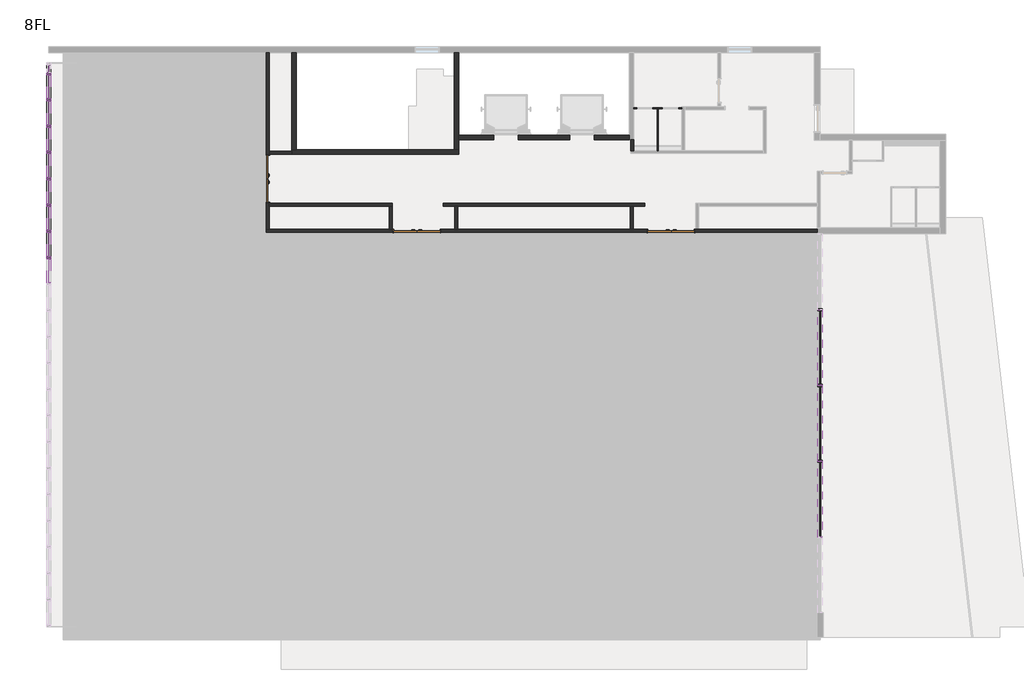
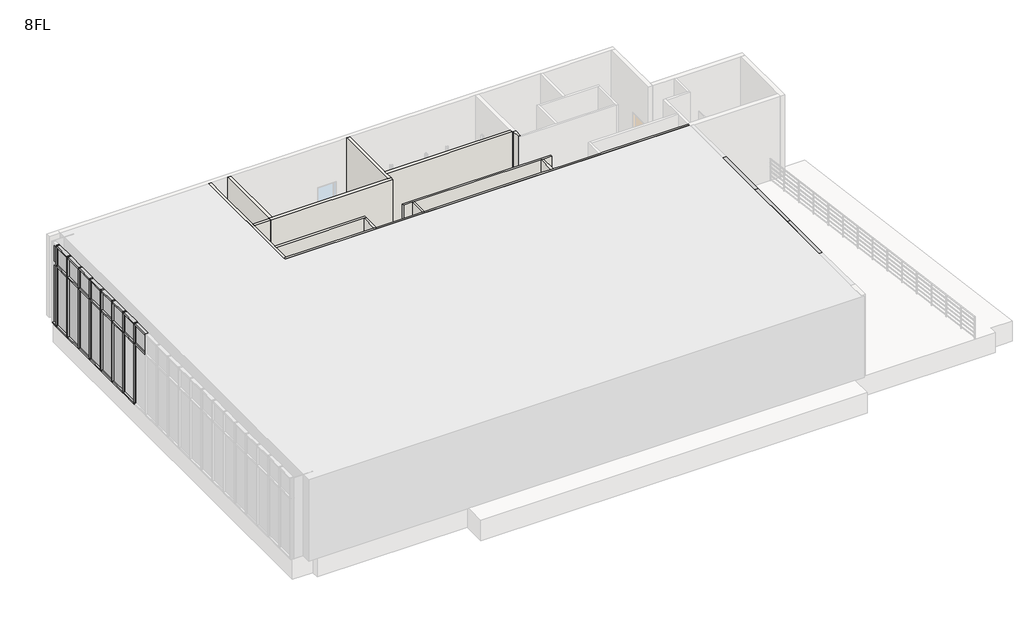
# One storey, part 2 of 3: 46 members, 19 plates, 15 walls, 3 doors.
"""IFC4 building model written with IfcOpenShell, lengths in millimetres."""

from ifc_helpers import new_model, si_unit, frame, origin, place, context, project, spatial, polyline, outline, extrude, faceted_brep, transform, mapped, element, save
from components import door_1de376c6, member_25x150_5b56dd58, member_70x150_6224b0b0, member_70x150_cdd4dcf9, member_70x150_66cf63de, member_70x150_26475b18, member_70x150_ad4265bc, member_70x150_a15bb337, plate_db6f16bc, plate_28587fd3, plate_396bcf3c, plate_4066ba05, plate_ba683b9a

model = new_model("IFC4")

# Units and contexts
model_context = context("Model", 3, world=origin())
ifc_project = project(units=[si_unit("LENGTHUNIT", "METRE", prefix="MILLI")], contexts=[model_context])

# Site, building, storey
site = spatial("IfcSite", under=ifc_project)
building = spatial("IfcBuilding", under=site)
storey = spatial("IfcBuildingStorey", under=building, Name="8FL", Elevation=28600.0)

# Doors
placement = place(None, origin())
door_shape = door_1de376c6(model_context)
element("IfcDoor", 1, ObjectType="両開き戸 : 両開き：w1600h2000", at=placement, inside=storey, context=model_context, shape_type="MappedRepresentation", body=[
    mapped(door_shape, transform((-21845.9784025, 12245.6585069, 28600.0), x_axis=(0.0, 1.0, 0.0), y_axis=(-1.0, 0.0, 0.0), z_axis=(0.0, 0.0, 1.0))),
])
element("IfcDoor", 2, ObjectType="両開き戸 : 両開き：w1600h2000", at=placement, inside=storey, context=model_context, shape_type="MappedRepresentation", body=[
    mapped(door_shape, transform((-16754.4500107, 10449.6868987, 28600.0), x_axis=(-1.0, 0.0, 0.0), y_axis=(0.0, -1.0, 0.0), z_axis=(0.0, 0.0, 1.0))),
])
element("IfcDoor", 3, ObjectType="両開き戸 : 両開き：w1600h2000", at=placement, inside=storey, context=model_context, shape_type="MappedRepresentation", body=[
    mapped(door_shape, transform((-8054.4500107, 10449.6868987, 28600.0), x_axis=(-1.0, 0.0, 0.0), y_axis=(0.0, -1.0, 0.0), z_axis=(0.0, 0.0, 1.0))),
])

# Members
member_25x150_shape = member_25x150_5b56dd58(model_context)
element("IfcMember", 4, ObjectType="長方形のマリオン : 25x150", at=placement, inside=storey, context=model_context, shape_type="MappedRepresentation", body=[
    mapped(member_25x150_shape, transform((-2945.9784025, 2564.6868987, 32600.0), x_axis=(0.0, 0.0, 1.0), y_axis=(1.0, 0.0, 0.0), z_axis=(0.0, 1.0, 0.0))),
])
element("IfcMember", 5, ObjectType="長方形のマリオン : 25x150", at=placement, inside=storey, context=model_context, shape_type="MappedRepresentation", body=[
    mapped(member_25x150_shape, transform((-2945.9784025, 5159.6868987, 32600.0), x_axis=(0.0, 0.0, 1.0), y_axis=(1.0, 0.0, 0.0), z_axis=(0.0, 1.0, 0.0))),
])
element("IfcMember", 6, ObjectType="長方形のマリオン : 25x150", at=placement, inside=storey, context=model_context, shape_type="MappedRepresentation", body=[
    mapped(member_25x150_shape, transform((-2945.9784025, 7754.6868987, 32600.0), x_axis=(0.0, 0.0, 1.0), y_axis=(1.0, 0.0, 0.0), z_axis=(0.0, 1.0, 0.0))),
])
member_70x150_shape = member_70x150_6224b0b0(model_context)
element("IfcMember", 7, ObjectType="長方形のマリオン : 70x150", at=placement, inside=storey, context=model_context, shape_type="MappedRepresentation", body=[
    mapped(member_70x150_shape, transform((-2945.9784025, 2564.6868987, 28600.0), x_axis=(0.0, 1.0, 0.0), y_axis=(1.0, 0.0, 0.0), z_axis=(0.0, 0.0, -1.0))),
])
element("IfcMember", 8, ObjectType="長方形のマリオン : 70x150", at=placement, inside=storey, context=model_context, shape_type="MappedRepresentation", body=[
    mapped(member_70x150_shape, transform((-2945.9784025, 5159.6868987, 28600.0), x_axis=(0.0, 1.0, 0.0), y_axis=(1.0, 0.0, 0.0), z_axis=(0.0, 0.0, -1.0))),
])
element("IfcMember", 9, ObjectType="長方形のマリオン : 70x150", at=placement, inside=storey, context=model_context, shape_type="MappedRepresentation", body=[
    mapped(member_70x150_shape, transform((-2945.9784025, 7754.6868987, 28600.0), x_axis=(0.0, 1.0, 0.0), y_axis=(1.0, 0.0, 0.0), z_axis=(0.0, 0.0, -1.0))),
])
member_70x150_2_shape = member_70x150_cdd4dcf9(model_context)
element("IfcMember", 10, ObjectType="長方形のマリオン : 70x150", at=placement, inside=storey, context=model_context, shape_type="MappedRepresentation", body=[
    mapped(member_70x150_2_shape, transform((-29345.9784025, 15834.6868987, 28600.0), x_axis=(0.0, 1.0, 0.0), y_axis=(1.0, 0.0, 0.0), z_axis=(0.0, 0.0, -1.0))),
])
element("IfcMember", 11, ObjectType="長方形のマリオン : 70x150", at=placement, inside=storey, context=model_context, shape_type="MappedRepresentation", body=[
    mapped(member_70x150_2_shape, transform((-29345.9784025, 14934.6868987, 28600.0), x_axis=(0.0, 1.0, 0.0), y_axis=(1.0, 0.0, 0.0), z_axis=(0.0, 0.0, -1.0))),
])
element("IfcMember", 12, ObjectType="長方形のマリオン : 70x150", at=placement, inside=storey, context=model_context, shape_type="MappedRepresentation", body=[
    mapped(member_70x150_2_shape, transform((-29345.9784025, 14034.6868987, 28600.0), x_axis=(0.0, 1.0, 0.0), y_axis=(1.0, 0.0, 0.0), z_axis=(0.0, 0.0, -1.0))),
])
element("IfcMember", 13, ObjectType="長方形のマリオン : 70x150", at=placement, inside=storey, context=model_context, shape_type="MappedRepresentation", body=[
    mapped(member_70x150_2_shape, transform((-29345.9784025, 13134.6868987, 28600.0), x_axis=(0.0, 1.0, 0.0), y_axis=(1.0, 0.0, 0.0), z_axis=(0.0, 0.0, -1.0))),
])
element("IfcMember", 14, ObjectType="長方形のマリオン : 70x150", at=placement, inside=storey, context=model_context, shape_type="MappedRepresentation", body=[
    mapped(member_70x150_2_shape, transform((-29345.9784025, 12234.6868987, 28600.0), x_axis=(0.0, 1.0, 0.0), y_axis=(1.0, 0.0, 0.0), z_axis=(0.0, 0.0, -1.0))),
])
element("IfcMember", 15, ObjectType="長方形のマリオン : 70x150", at=placement, inside=storey, context=model_context, shape_type="MappedRepresentation", body=[
    mapped(member_70x150_2_shape, transform((-29345.9784025, 11334.6868987, 28600.0), x_axis=(0.0, 1.0, 0.0), y_axis=(1.0, 0.0, 0.0), z_axis=(0.0, 0.0, -1.0))),
])
element("IfcMember", 16, ObjectType="長方形のマリオン : 70x150", at=placement, inside=storey, context=model_context, shape_type="MappedRepresentation", body=[
    mapped(member_70x150_2_shape, transform((-29345.9784025, 10434.6868987, 28600.0), x_axis=(0.0, 1.0, 0.0), y_axis=(1.0, 0.0, 0.0), z_axis=(0.0, 0.0, -1.0))),
])
element("IfcMember", 17, ObjectType="長方形のマリオン : 70x150", at=placement, inside=storey, context=model_context, shape_type="MappedRepresentation", body=[
    mapped(member_70x150_2_shape, transform((-29345.9784025, 9534.6868987, 28600.0), x_axis=(0.0, 1.0, 0.0), y_axis=(1.0, 0.0, 0.0), z_axis=(0.0, 0.0, -1.0))),
])
member_70x150_3_shape = member_70x150_66cf63de(model_context)
element("IfcMember", 18, ObjectType="長方形のマリオン : 70x150", at=placement, inside=storey, context=model_context, shape_type="MappedRepresentation", body=[
    mapped(member_70x150_3_shape, transform((-29345.9784025, 14969.6868987, 28600.0), x_axis=(0.0, 0.0, -1.0), y_axis=(1.0, 0.0, 0.0), z_axis=(0.0, -1.0, 0.0))),
])
element("IfcMember", 19, ObjectType="長方形のマリオン : 70x150", at=placement, inside=storey, context=model_context, shape_type="MappedRepresentation", body=[
    mapped(member_70x150_3_shape, transform((-29345.9784025, 14069.6868987, 28600.0), x_axis=(0.0, 0.0, -1.0), y_axis=(1.0, 0.0, 0.0), z_axis=(0.0, -1.0, 0.0))),
])
element("IfcMember", 20, ObjectType="長方形のマリオン : 70x150", at=placement, inside=storey, context=model_context, shape_type="MappedRepresentation", body=[
    mapped(member_70x150_3_shape, transform((-29345.9784025, 13169.6868987, 28600.0), x_axis=(0.0, 0.0, -1.0), y_axis=(1.0, 0.0, 0.0), z_axis=(0.0, -1.0, 0.0))),
])
element("IfcMember", 21, ObjectType="長方形のマリオン : 70x150", at=placement, inside=storey, context=model_context, shape_type="MappedRepresentation", body=[
    mapped(member_70x150_3_shape, transform((-29345.9784025, 12269.6868987, 28600.0), x_axis=(0.0, 0.0, -1.0), y_axis=(1.0, 0.0, 0.0), z_axis=(0.0, -1.0, 0.0))),
])
element("IfcMember", 22, ObjectType="長方形のマリオン : 70x150", at=placement, inside=storey, context=model_context, shape_type="MappedRepresentation", body=[
    mapped(member_70x150_3_shape, transform((-29345.9784025, 11369.6868987, 28600.0), x_axis=(0.0, 0.0, -1.0), y_axis=(1.0, 0.0, 0.0), z_axis=(0.0, -1.0, 0.0))),
])
element("IfcMember", 23, ObjectType="長方形のマリオン : 70x150", at=placement, inside=storey, context=model_context, shape_type="MappedRepresentation", body=[
    mapped(member_70x150_3_shape, transform((-29345.9784025, 10469.6868987, 28600.0), x_axis=(0.0, 0.0, -1.0), y_axis=(1.0, 0.0, 0.0), z_axis=(0.0, -1.0, 0.0))),
])
element("IfcMember", 24, ObjectType="長方形のマリオン : 70x150", at=placement, inside=storey, context=model_context, shape_type="MappedRepresentation", body=[
    mapped(member_70x150_3_shape, transform((-29345.9784025, 9569.6868987, 28600.0), x_axis=(0.0, 0.0, -1.0), y_axis=(1.0, 0.0, 0.0), z_axis=(0.0, -1.0, 0.0))),
])
element("IfcMember", 25, ObjectType="長方形のマリオン : 70x150", at=placement, inside=storey, context=model_context, shape_type="MappedRepresentation", body=[
    mapped(member_70x150_3_shape, transform((-29345.9784025, 15799.6868987, 32600.0), x_axis=(0.0, 0.0, 1.0), y_axis=(1.0, 0.0, 0.0), z_axis=(0.0, 1.0, 0.0))),
])
element("IfcMember", 26, ObjectType="長方形のマリオン : 70x150", at=placement, inside=storey, context=model_context, shape_type="MappedRepresentation", body=[
    mapped(member_70x150_3_shape, transform((-29345.9784025, 14899.6868987, 32600.0), x_axis=(0.0, 0.0, 1.0), y_axis=(1.0, 0.0, 0.0), z_axis=(0.0, 1.0, 0.0))),
])
element("IfcMember", 27, ObjectType="長方形のマリオン : 70x150", at=placement, inside=storey, context=model_context, shape_type="MappedRepresentation", body=[
    mapped(member_70x150_3_shape, transform((-29345.9784025, 13999.6868987, 32600.0), x_axis=(0.0, 0.0, 1.0), y_axis=(1.0, 0.0, 0.0), z_axis=(0.0, 1.0, 0.0))),
])
element("IfcMember", 28, ObjectType="長方形のマリオン : 70x150", at=placement, inside=storey, context=model_context, shape_type="MappedRepresentation", body=[
    mapped(member_70x150_3_shape, transform((-29345.9784025, 13099.6868987, 32600.0), x_axis=(0.0, 0.0, 1.0), y_axis=(1.0, 0.0, 0.0), z_axis=(0.0, 1.0, 0.0))),
])
element("IfcMember", 29, ObjectType="長方形のマリオン : 70x150", at=placement, inside=storey, context=model_context, shape_type="MappedRepresentation", body=[
    mapped(member_70x150_3_shape, transform((-29345.9784025, 12199.6868987, 32600.0), x_axis=(0.0, 0.0, 1.0), y_axis=(1.0, 0.0, 0.0), z_axis=(0.0, 1.0, 0.0))),
])
element("IfcMember", 30, ObjectType="長方形のマリオン : 70x150", at=placement, inside=storey, context=model_context, shape_type="MappedRepresentation", body=[
    mapped(member_70x150_3_shape, transform((-29345.9784025, 11299.6868987, 32600.0), x_axis=(0.0, 0.0, 1.0), y_axis=(1.0, 0.0, 0.0), z_axis=(0.0, 1.0, 0.0))),
])
element("IfcMember", 31, ObjectType="長方形のマリオン : 70x150", at=placement, inside=storey, context=model_context, shape_type="MappedRepresentation", body=[
    mapped(member_70x150_3_shape, transform((-29345.9784025, 10399.6868987, 32600.0), x_axis=(0.0, 0.0, 1.0), y_axis=(1.0, 0.0, 0.0), z_axis=(0.0, 1.0, 0.0))),
])
element("IfcMember", 32, ObjectType="長方形のマリオン : 70x150", at=placement, inside=storey, context=model_context, shape_type="MappedRepresentation", body=[
    mapped(member_70x150_3_shape, transform((-29345.9784025, 9499.6868987, 32600.0), x_axis=(0.0, 0.0, 1.0), y_axis=(1.0, 0.0, 0.0), z_axis=(0.0, 1.0, 0.0))),
])
member_70x150_4_shape = member_70x150_26475b18(model_context)
element("IfcMember", 33, ObjectType="長方形のマリオン : 70x150", at=placement, inside=storey, context=model_context, shape_type="MappedRepresentation", body=[
    mapped(member_70x150_4_shape, transform((-29345.9784025, 15834.6868987, 31600.0), x_axis=(0.0, 1.0, 0.0), y_axis=(1.0, 0.0, 0.0), z_axis=(0.0, 0.0, -1.0))),
])
element("IfcMember", 34, ObjectType="長方形のマリオン : 70x150", at=placement, inside=storey, context=model_context, shape_type="MappedRepresentation", body=[
    mapped(member_70x150_4_shape, transform((-29345.9784025, 14934.6868987, 31600.0), x_axis=(0.0, 1.0, 0.0), y_axis=(1.0, 0.0, 0.0), z_axis=(0.0, 0.0, -1.0))),
])
element("IfcMember", 35, ObjectType="長方形のマリオン : 70x150", at=placement, inside=storey, context=model_context, shape_type="MappedRepresentation", body=[
    mapped(member_70x150_4_shape, transform((-29345.9784025, 14034.6868987, 31600.0), x_axis=(0.0, 1.0, 0.0), y_axis=(1.0, 0.0, 0.0), z_axis=(0.0, 0.0, -1.0))),
])
element("IfcMember", 36, ObjectType="長方形のマリオン : 70x150", at=placement, inside=storey, context=model_context, shape_type="MappedRepresentation", body=[
    mapped(member_70x150_4_shape, transform((-29345.9784025, 13134.6868987, 31600.0), x_axis=(0.0, 1.0, 0.0), y_axis=(1.0, 0.0, 0.0), z_axis=(0.0, 0.0, -1.0))),
])
element("IfcMember", 37, ObjectType="長方形のマリオン : 70x150", at=placement, inside=storey, context=model_context, shape_type="MappedRepresentation", body=[
    mapped(member_70x150_4_shape, transform((-29345.9784025, 12234.6868987, 31600.0), x_axis=(0.0, 1.0, 0.0), y_axis=(1.0, 0.0, 0.0), z_axis=(0.0, 0.0, -1.0))),
])
element("IfcMember", 38, ObjectType="長方形のマリオン : 70x150", at=placement, inside=storey, context=model_context, shape_type="MappedRepresentation", body=[
    mapped(member_70x150_4_shape, transform((-29345.9784025, 11334.6868987, 31600.0), x_axis=(0.0, 1.0, 0.0), y_axis=(1.0, 0.0, 0.0), z_axis=(0.0, 0.0, -1.0))),
])
element("IfcMember", 39, ObjectType="長方形のマリオン : 70x150", at=placement, inside=storey, context=model_context, shape_type="MappedRepresentation", body=[
    mapped(member_70x150_4_shape, transform((-29345.9784025, 10434.6868987, 31600.0), x_axis=(0.0, 1.0, 0.0), y_axis=(1.0, 0.0, 0.0), z_axis=(0.0, 0.0, -1.0))),
])
element("IfcMember", 40, ObjectType="長方形のマリオン : 70x150", at=placement, inside=storey, context=model_context, shape_type="MappedRepresentation", body=[
    mapped(member_70x150_4_shape, transform((-29345.9784025, 9534.6868987, 31600.0), x_axis=(0.0, 1.0, 0.0), y_axis=(1.0, 0.0, 0.0), z_axis=(0.0, 0.0, -1.0))),
])
member_70x150_5_shape = member_70x150_ad4265bc(model_context)
element("IfcMember", 41, ObjectType="長方形のマリオン : 70x150", at=placement, inside=storey, context=model_context, shape_type="MappedRepresentation", body=[
    mapped(member_70x150_5_shape, transform((-29345.9784025, 15799.6868987, 31600.0), x_axis=(0.0, 0.0, 1.0), y_axis=(1.0, 0.0, 0.0), z_axis=(0.0, 1.0, 0.0))),
])
element("IfcMember", 42, ObjectType="長方形のマリオン : 70x150", at=placement, inside=storey, context=model_context, shape_type="MappedRepresentation", body=[
    mapped(member_70x150_5_shape, transform((-29345.9784025, 14899.6868987, 31600.0), x_axis=(0.0, 0.0, 1.0), y_axis=(1.0, 0.0, 0.0), z_axis=(0.0, 1.0, 0.0))),
])
element("IfcMember", 43, ObjectType="長方形のマリオン : 70x150", at=placement, inside=storey, context=model_context, shape_type="MappedRepresentation", body=[
    mapped(member_70x150_5_shape, transform((-29345.9784025, 13999.6868987, 31600.0), x_axis=(0.0, 0.0, 1.0), y_axis=(1.0, 0.0, 0.0), z_axis=(0.0, 1.0, 0.0))),
])
element("IfcMember", 44, ObjectType="長方形のマリオン : 70x150", at=placement, inside=storey, context=model_context, shape_type="MappedRepresentation", body=[
    mapped(member_70x150_5_shape, transform((-29345.9784025, 13099.6868987, 31600.0), x_axis=(0.0, 0.0, 1.0), y_axis=(1.0, 0.0, 0.0), z_axis=(0.0, 1.0, 0.0))),
])
element("IfcMember", 45, ObjectType="長方形のマリオン : 70x150", at=placement, inside=storey, context=model_context, shape_type="MappedRepresentation", body=[
    mapped(member_70x150_5_shape, transform((-29345.9784025, 12199.6868987, 31600.0), x_axis=(0.0, 0.0, 1.0), y_axis=(1.0, 0.0, 0.0), z_axis=(0.0, 1.0, 0.0))),
])
element("IfcMember", 46, ObjectType="長方形のマリオン : 70x150", at=placement, inside=storey, context=model_context, shape_type="MappedRepresentation", body=[
    mapped(member_70x150_5_shape, transform((-29345.9784025, 11299.6868987, 31600.0), x_axis=(0.0, 0.0, 1.0), y_axis=(1.0, 0.0, 0.0), z_axis=(0.0, 1.0, 0.0))),
])
element("IfcMember", 47, ObjectType="長方形のマリオン : 70x150", at=placement, inside=storey, context=model_context, shape_type="MappedRepresentation", body=[
    mapped(member_70x150_5_shape, transform((-29345.9784025, 10399.6868987, 31600.0), x_axis=(0.0, 0.0, 1.0), y_axis=(1.0, 0.0, 0.0), z_axis=(0.0, 1.0, 0.0))),
])
element("IfcMember", 48, ObjectType="長方形のマリオン : 70x150", at=placement, inside=storey, context=model_context, shape_type="MappedRepresentation", body=[
    mapped(member_70x150_5_shape, transform((-29345.9784025, 9499.6868987, 31600.0), x_axis=(0.0, 0.0, 1.0), y_axis=(1.0, 0.0, 0.0), z_axis=(0.0, 1.0, 0.0))),
])
member_70x150_6_shape = member_70x150_a15bb337(model_context)
element("IfcMember", 49, ObjectType="長方形のマリオン : 70x150", at=placement, inside=storey, context=model_context, shape_type="MappedRepresentation", body=[
    mapped(member_70x150_6_shape, transform((-29345.9784025, 15869.6868987, 28600.0), x_axis=(0.0, 0.0, -1.0), y_axis=(1.0, 0.0, 0.0), z_axis=(0.0, -1.0, 0.0))),
])

# Plates
plate_shape = plate_db6f16bc(model_context)
element("IfcPlate", 50, ObjectType="r パネル FIX 下框付 : 框 H100", at=placement, inside=storey, context=model_context, shape_type="MappedRepresentation", body=[
    mapped(plate_shape, transform((-2945.9784025, 1267.1868987, 28600.0), x_axis=(0.0, 1.0, 0.0), y_axis=(-1.0, 0.0, 0.0), z_axis=(0.0, 0.0, 1.0))),
])
element("IfcPlate", 51, ObjectType="r パネル FIX 下框付 : 框 H100", at=placement, inside=storey, context=model_context, shape_type="MappedRepresentation", body=[
    mapped(plate_shape, transform((-2945.9784025, 3862.1868987, 28600.0), x_axis=(0.0, 1.0, 0.0), y_axis=(-1.0, 0.0, 0.0), z_axis=(0.0, 0.0, 1.0))),
])
element("IfcPlate", 52, ObjectType="r パネル FIX 下框付 : 框 H100", at=placement, inside=storey, context=model_context, shape_type="MappedRepresentation", body=[
    mapped(plate_shape, transform((-2945.9784025, 6457.1868987, 28600.0), x_axis=(0.0, 1.0, 0.0), y_axis=(-1.0, 0.0, 0.0), z_axis=(0.0, 0.0, 1.0))),
])
plate_2_shape = plate_28587fd3(model_context)
element("IfcPlate", 53, ObjectType="システム パネル : 標準", at=placement, inside=storey, context=model_context, shape_type="MappedRepresentation", body=[
    mapped(plate_2_shape, transform((-29345.9784025, 10884.6868987, 28670.0), x_axis=(0.0, 1.0, 0.0), y_axis=(-1.0, 0.0, 0.0), z_axis=(0.0, 0.0, 1.0))),
])
element("IfcPlate", 54, ObjectType="システム パネル : 標準", at=placement, inside=storey, context=model_context, shape_type="MappedRepresentation", body=[
    mapped(plate_2_shape, transform((-29345.9784025, 11784.6868987, 28670.0), x_axis=(0.0, 1.0, 0.0), y_axis=(-1.0, 0.0, 0.0), z_axis=(0.0, 0.0, 1.0))),
])
element("IfcPlate", 55, ObjectType="システム パネル : 標準", at=placement, inside=storey, context=model_context, shape_type="MappedRepresentation", body=[
    mapped(plate_2_shape, transform((-29345.9784025, 12684.6868987, 28670.0), x_axis=(0.0, 1.0, 0.0), y_axis=(-1.0, 0.0, 0.0), z_axis=(0.0, 0.0, 1.0))),
])
element("IfcPlate", 56, ObjectType="システム パネル : 標準", at=placement, inside=storey, context=model_context, shape_type="MappedRepresentation", body=[
    mapped(plate_2_shape, transform((-29345.9784025, 13584.6868987, 28670.0), x_axis=(0.0, 1.0, 0.0), y_axis=(-1.0, 0.0, 0.0), z_axis=(0.0, 0.0, 1.0))),
])
element("IfcPlate", 57, ObjectType="システム パネル : 標準", at=placement, inside=storey, context=model_context, shape_type="MappedRepresentation", body=[
    mapped(plate_2_shape, transform((-29345.9784025, 14484.6868987, 28670.0), x_axis=(0.0, 1.0, 0.0), y_axis=(-1.0, 0.0, 0.0), z_axis=(0.0, 0.0, 1.0))),
])
element("IfcPlate", 58, ObjectType="システム パネル : 標準", at=placement, inside=storey, context=model_context, shape_type="MappedRepresentation", body=[
    mapped(plate_2_shape, transform((-29345.9784025, 15384.6868987, 28670.0), x_axis=(0.0, 1.0, 0.0), y_axis=(-1.0, 0.0, 0.0), z_axis=(0.0, 0.0, 1.0))),
])
plate_3_shape = plate_396bcf3c(model_context)
element("IfcPlate", 59, ObjectType="システム パネル : 標準", at=placement, inside=storey, context=model_context, shape_type="MappedRepresentation", body=[
    mapped(plate_3_shape, transform((-29345.9784025, 9084.6868987, 31635.0), x_axis=(0.0, 1.0, 0.0), y_axis=(-1.0, 0.0, 0.0), z_axis=(0.0, 0.0, 1.0))),
])
element("IfcPlate", 60, ObjectType="システム パネル : 標準", at=placement, inside=storey, context=model_context, shape_type="MappedRepresentation", body=[
    mapped(plate_3_shape, transform((-29345.9784025, 9984.6868987, 31635.0), x_axis=(0.0, 1.0, 0.0), y_axis=(-1.0, 0.0, 0.0), z_axis=(0.0, 0.0, 1.0))),
])
element("IfcPlate", 61, ObjectType="システム パネル : 標準", at=placement, inside=storey, context=model_context, shape_type="MappedRepresentation", body=[
    mapped(plate_3_shape, transform((-29345.9784025, 10884.6868987, 31635.0), x_axis=(0.0, 1.0, 0.0), y_axis=(-1.0, 0.0, 0.0), z_axis=(0.0, 0.0, 1.0))),
])
element("IfcPlate", 62, ObjectType="システム パネル : 標準", at=placement, inside=storey, context=model_context, shape_type="MappedRepresentation", body=[
    mapped(plate_3_shape, transform((-29345.9784025, 11784.6868987, 31635.0), x_axis=(0.0, 1.0, 0.0), y_axis=(-1.0, 0.0, 0.0), z_axis=(0.0, 0.0, 1.0))),
])
element("IfcPlate", 63, ObjectType="システム パネル : 標準", at=placement, inside=storey, context=model_context, shape_type="MappedRepresentation", body=[
    mapped(plate_3_shape, transform((-29345.9784025, 12684.6868987, 31635.0), x_axis=(0.0, 1.0, 0.0), y_axis=(-1.0, 0.0, 0.0), z_axis=(0.0, 0.0, 1.0))),
])
element("IfcPlate", 64, ObjectType="システム パネル : 標準", at=placement, inside=storey, context=model_context, shape_type="MappedRepresentation", body=[
    mapped(plate_3_shape, transform((-29345.9784025, 13584.6868987, 31635.0), x_axis=(0.0, 1.0, 0.0), y_axis=(-1.0, 0.0, 0.0), z_axis=(0.0, 0.0, 1.0))),
])
element("IfcPlate", 65, ObjectType="システム パネル : 標準", at=placement, inside=storey, context=model_context, shape_type="MappedRepresentation", body=[
    mapped(plate_3_shape, transform((-29345.9784025, 14484.6868987, 31635.0), x_axis=(0.0, 1.0, 0.0), y_axis=(-1.0, 0.0, 0.0), z_axis=(0.0, 0.0, 1.0))),
])
element("IfcPlate", 66, ObjectType="システム パネル : 標準", at=placement, inside=storey, context=model_context, shape_type="MappedRepresentation", body=[
    mapped(plate_3_shape, transform((-29345.9784025, 15384.6868987, 31635.0), x_axis=(0.0, 1.0, 0.0), y_axis=(-1.0, 0.0, 0.0), z_axis=(0.0, 0.0, 1.0))),
])
plate_4_shape = plate_4066ba05(model_context)
element("IfcPlate", 67, ObjectType="システム パネル : 標準", at=placement, inside=storey, context=model_context, shape_type="MappedRepresentation", body=[
    mapped(plate_4_shape, transform((-29345.9784025, 15999.6868987, 28670.0), x_axis=(0.0, 1.0, 0.0), y_axis=(-1.0, 0.0, 0.0), z_axis=(0.0, 0.0, 1.0))),
])
plate_5_shape = plate_ba683b9a(model_context)
element("IfcPlate", 68, ObjectType="システム パネル : 標準", at=placement, inside=storey, context=model_context, shape_type="MappedRepresentation", body=[
    mapped(plate_5_shape, transform((-29345.9784025, 15999.6868987, 31635.0), x_axis=(0.0, 1.0, 0.0), y_axis=(-1.0, 0.0, 0.0), z_axis=(0.0, 0.0, 1.0))),
])

# Walls
element("IfcWall", 69, ObjectType="標準150", at=placement, inside=storey, context=model_context, shape_type="SweptSolid", body=[
    extrude(outline(polyline([(32600.0, -9470.9784025), (32600.0, -15320.9784025), (28600.0, -15320.9784025), (28600.0, -14120.9784025), (30725.0, -14120.9784025), (30725.0, -13270.9784025), (28600.0, -13270.9784025), (28600.0, -11520.9784025), (30725.0, -11520.9784025), (30725.0, -10670.9784025), (28600.0, -10670.9784025), (28600.0, -9470.9784025), (32600.0, -9470.9784025)])), frame((0.0, 13574.6868987, 0.0), z_axis=(0.0, 1.0, 0.0), x_axis=(0.0, 0.0, 1.0)), (0.0, 0.0, 1.0), 150.0),
])
element("IfcWall", 70, ObjectType="標準150", at=placement, inside=storey, context=model_context, shape_type="Brep", body=[
    faceted_brep([(-15320.9784025, 13224.6868987, 28600.0), (-15320.9784025, 13574.6868987, 28600.0), (-15320.9784025, 13724.6868987, 28600.0), (-15320.9784025, 16549.6868987, 28600.0), (-15320.9784025, 16549.6868987, 32600.0), (-15320.9784025, 15749.6868987, 32600.0), (-15320.9784025, 13724.6868987, 32600.0), (-15320.9784025, 13574.6868987, 32600.0), (-15320.9784025, 13224.6868987, 32600.0), (-15470.9784025, 13224.6868987, 28600.0), (-15470.9784025, 13224.6868987, 32600.0), (-15470.9784025, 15749.6868987, 32600.0), (-15470.9784025, 16549.6868987, 32600.0), (-15470.9784025, 16549.6868987, 28600.0)], [[[0, 1, 2, 3, 4, 5, 6, 7, 8]], [[9, 10, 11, 12, 13]], [[3, 2, 1, 0, 9, 13]], [[8, 7, 6, 5, 4, 12, 11, 10]], [[4, 3, 13, 12]], [[0, 8, 10, 9]]]),
])
element("IfcWall", 71, ObjectType="標準150", at=placement, inside=storey, context=model_context, shape_type="Brep", body=[
    faceted_brep([(-15320.9784025, 13224.6868987, 28600.0), (-15470.9784025, 13224.6868987, 28600.0), (-20870.9784025, 13224.6868987, 28600.0), (-21020.9784025, 13224.6868987, 28600.0), (-21020.9784025, 13224.6868987, 32600.0), (-20870.9784025, 13224.6868987, 32600.0), (-15470.9784025, 13224.6868987, 32600.0), (-15320.9784025, 13224.6868987, 32600.0), (-15320.9784025, 13074.6868987, 28600.0), (-15320.9784025, 13074.6868987, 32600.0), (-21020.9784025, 13074.6868987, 32600.0), (-21020.9784025, 13074.6868987, 28600.0), (-21020.9784025, 13174.6868987, 28600.0), (-21020.9784025, 13174.6868987, 32600.0)], [[[0, 1, 2, 3, 4, 5, 6, 7]], [[8, 9, 10, 11]], [[3, 2, 1, 0, 8, 11, 12]], [[7, 6, 5, 4, 13, 10, 9]], [[4, 3, 12, 11, 10, 13]], [[0, 7, 9, 8]]]),
])
element("IfcWall", 72, ObjectType="標準150", at=placement, inside=storey, context=model_context, shape_type="Brep", body=[
    faceted_brep([(-20870.9784025, 13224.6868987, 28600.0), (-20870.9784025, 16549.6868987, 28600.0), (-20870.9784025, 16549.6868987, 32600.0), (-20870.9784025, 13224.6868987, 32600.0), (-21020.9784025, 13224.6868987, 28600.0), (-21020.9784025, 13224.6868987, 32600.0), (-21020.9784025, 15749.6868987, 32600.0), (-21020.9784025, 16549.6868987, 32600.0), (-21020.9784025, 16549.6868987, 28600.0)], [[[0, 1, 2, 3]], [[4, 5, 6, 7, 8]], [[1, 0, 4, 8]], [[3, 2, 7, 6, 5]], [[0, 3, 5, 4]], [[2, 1, 8, 7]]]),
])
element("IfcWall", 73, ObjectType="標準100", at=placement, inside=storey, context=model_context, shape_type="Brep", body=[
    faceted_brep([(-21795.9784025, 10499.6868987, 28600.0), (-21795.9784025, 11299.6868987, 28600.0), (-21795.9784025, 11399.6868987, 28600.0), (-21795.9784025, 11412.1868987, 28600.0), (-21795.9784025, 11412.1868987, 30625.0), (-21795.9784025, 13062.1868987, 30625.0), (-21795.9784025, 13062.1868987, 28600.0), (-21795.9784025, 13074.6868987, 28600.0), (-21795.9784025, 13174.6868987, 28600.0), (-21795.9784025, 16549.6868987, 28600.0), (-21795.9784025, 16549.6868987, 32600.0), (-21795.9784025, 15749.6868987, 32600.0), (-21795.9784025, 13174.6868987, 32600.0), (-21795.9784025, 13074.6868987, 32600.0), (-21795.9784025, 11399.6868987, 32600.0), (-21795.9784025, 11299.6868987, 32600.0), (-21795.9784025, 10499.6868987, 32600.0), (-21895.9784025, 11412.1868987, 30625.0), (-21895.9784025, 11412.1868987, 28600.0), (-21895.9784025, 10499.6868987, 28600.0), (-21895.9784025, 10499.6868987, 32600.0), (-21895.9784025, 16549.6868987, 32600.0), (-21895.9784025, 16549.6868987, 28600.0), (-21895.9784025, 13062.1868987, 28600.0), (-21895.9784025, 13062.1868987, 30625.0)], [[[0, 1, 2, 3, 4, 5, 6, 7, 8, 9, 10, 11, 12, 13, 14, 15, 16]], [[17, 18, 19, 20, 21, 22, 23, 24]], [[23, 22, 9, 8, 7, 6]], [[19, 18, 3, 2, 1, 0]], [[16, 15, 14, 13, 12, 11, 10, 21, 20]], [[0, 16, 20, 19]], [[10, 9, 22, 21]], [[6, 5, 24, 23]], [[4, 3, 18, 17]], [[5, 4, 17, 24]]]),
])
element("IfcWall", 74, ObjectType="標準100", at=placement, inside=storey, context=model_context, shape_type="SweptSolid", body=[
    extrude(outline(polyline([(-15345.9784025, 11299.6868987), (-15345.9784025, 10499.6868987), (-15445.9784025, 10499.6868987), (-15445.9784025, 11299.6868987), (-15345.9784025, 11299.6868987)])), frame((0.0, 0.0, 28600.0), z_axis=(0.0, 0.0, 1.0), x_axis=(1.0, 0.0, 0.0)), (0.0, 0.0, 1.0), 4000.0),
])
element("IfcWall", 75, ObjectType="標準100", at=placement, inside=storey, context=model_context, shape_type="Brep", body=[
    faceted_brep([(-15845.9784025, 11299.6868987, 28600.0), (-15445.9784025, 11299.6868987, 28600.0), (-15345.9784025, 11299.6868987, 28600.0), (-9445.9784025, 11299.6868987, 28600.0), (-9345.9784025, 11299.6868987, 28600.0), (-8945.9784025, 11299.6868987, 28600.0), (-8945.9784025, 11299.6868987, 32600.0), (-9345.9784025, 11299.6868987, 32600.0), (-9445.9784025, 11299.6868987, 32600.0), (-9845.9784025, 11299.6868987, 32600.0), (-14945.9784025, 11299.6868987, 32600.0), (-15345.9784025, 11299.6868987, 32600.0), (-15445.9784025, 11299.6868987, 32600.0), (-15845.9784025, 11299.6868987, 32600.0), (-15845.9784025, 11399.6868987, 28600.0), (-15845.9784025, 11399.6868987, 32600.0), (-8945.9784025, 11399.6868987, 32600.0), (-8945.9784025, 11399.6868987, 28600.0), (-15845.9784025, 11349.6868987, 28600.0), (-8945.9784025, 11349.6868987, 28600.0)], [[[0, 1, 2, 3, 4, 5, 6, 7, 8, 9, 10, 11, 12, 13]], [[14, 15, 16, 17]], [[5, 4, 3, 2, 1, 0, 18, 14, 17, 19]], [[6, 5, 19, 17, 16]], [[13, 12, 11, 10, 9, 8, 7, 6, 16, 15]], [[0, 13, 15, 14, 18]]]),
])
element("IfcWall", 76, ObjectType="標準100", at=placement, inside=storey, context=model_context, shape_type="SweptSolid", body=[
    extrude(outline(polyline([(-9445.9784025, 10499.6868987), (-9445.9784025, 11299.6868987), (-9345.9784025, 11299.6868987), (-9345.9784025, 10499.6868987), (-9445.9784025, 10499.6868987)])), frame((0.0, 0.0, 28600.0), z_axis=(0.0, 0.0, 1.0), x_axis=(1.0, 0.0, 0.0)), (0.0, 0.0, 1.0), 4000.0),
])
element("IfcWall", 77, ObjectType="標準100", at=placement, inside=storey, context=model_context, shape_type="Brep", body=[
    faceted_brep([(-21795.9784025, 11299.6868987, 28600.0), (-17695.9784025, 11299.6868987, 28600.0), (-17595.9784025, 11299.6868987, 28600.0), (-17595.9784025, 11299.6868987, 32600.0), (-17695.9784025, 11299.6868987, 32600.0), (-20945.9784025, 11299.6868987, 32600.0), (-21795.9784025, 11299.6868987, 32600.0), (-21795.9784025, 11399.6868987, 28600.0), (-21795.9784025, 11399.6868987, 32600.0), (-17595.9784025, 11399.6868987, 32600.0), (-17595.9784025, 11399.6868987, 28600.0)], [[[0, 1, 2, 3, 4, 5, 6]], [[7, 8, 9, 10]], [[2, 1, 0, 7, 10]], [[6, 5, 4, 3, 9, 8]], [[0, 6, 8, 7]], [[3, 2, 10, 9]]]),
])
element("IfcWall", 78, ObjectType="標準100", at=placement, inside=storey, context=model_context, shape_type="SweptSolid", body=[
    extrude(outline(polyline([(-17695.9784025, 10499.6868987), (-17695.9784025, 11299.6868987), (-17595.9784025, 11299.6868987), (-17595.9784025, 10499.6868987), (-17695.9784025, 10499.6868987)])), frame((0.0, 0.0, 28600.0), z_axis=(0.0, 0.0, 1.0), x_axis=(1.0, 0.0, 0.0)), (0.0, 0.0, 1.0), 4000.0),
])
element("IfcWall", 79, ObjectType="標準100", at=placement, inside=storey, context=model_context, shape_type="SweptSolid", body=[
    extrude(outline(polyline([(-21020.9784025, 13074.6868987), (-21795.9784025, 13074.6868987), (-21795.9784025, 13174.6868987), (-21020.9784025, 13174.6868987), (-21020.9784025, 13074.6868987)])), frame((0.0, 0.0, 28600.0), z_axis=(0.0, 0.0, 1.0), x_axis=(1.0, 0.0, 0.0)), (0.0, 0.0, 1.0), 4000.0),
])
element("IfcWall", 80, ObjectType="標準100", at=placement, inside=storey, context=model_context, shape_type="SweptSolid", body=[
    extrude(outline(polyline([(-9320.9784025, 13574.6868987), (-9320.9784025, 13199.6868987), (-9420.9784025, 13199.6868987), (-9420.9784025, 13574.6868987), (-9320.9784025, 13574.6868987)])), frame((0.0, 0.0, 28600.0), z_axis=(0.0, 0.0, 1.0), x_axis=(1.0, 0.0, 0.0)), (0.0, 0.0, 1.0), 4000.0),
])
element("IfcWall", 81, ObjectType="トイレブース 40", at=placement, inside=storey, context=model_context, shape_type="SweptSolid", body=[
    extrude(outline(polyline([(-8480.9784025, 14629.6868987), (-8480.9784025, 13199.6868987), (-8520.9784025, 13199.6868987), (-8520.9784025, 14629.6868987), (-8480.9784025, 14629.6868987)])), frame((0.0, 0.0, 28600.0), z_axis=(0.0, 0.0, 1.0), x_axis=(1.0, 0.0, 0.0)), (0.0, 0.0, 1.0), 2000.0),
])
element("IfcWall", 82, ObjectType="トイレブース 40", at=placement, inside=storey, context=model_context, shape_type="Brep", body=[
    faceted_brep([(-9320.9784025, 14629.6868987, 30600.0), (-9320.9784025, 14629.6868987, 28600.0), (-9223.4784025, 14629.6868987, 28600.0), (-9223.4784025, 14629.6868987, 30600.0), (-9320.9784025, 14669.6868987, 28600.0), (-9320.9784025, 14669.6868987, 30600.0), (-9223.4784025, 14669.6868987, 30600.0), (-9223.4784025, 14669.6868987, 28600.0)], [[[0, 1, 2, 3]], [[4, 5, 6, 7]], [[1, 4, 7, 2]], [[5, 0, 3, 6]], [[1, 0, 5, 4]], [[3, 2, 7, 6]]]),
    faceted_brep([(-7680.9784025, 14629.6868987, 28600.0), (-7680.9784025, 14629.6868987, 30600.0), (-7790.9784025, 14629.6868987, 30600.0), (-7790.9784025, 14629.6868987, 28600.0), (-7680.9784025, 14669.6868987, 30600.0), (-7680.9784025, 14669.6868987, 28600.0), (-7790.9784025, 14669.6868987, 28600.0), (-7790.9784025, 14669.6868987, 30600.0)], [[[0, 1, 2, 3]], [[4, 5, 6, 7]], [[5, 0, 3, 6]], [[1, 4, 7, 2]], [[1, 0, 5, 4]], [[3, 2, 7, 6]]]),
    faceted_brep([(-8673.4784025, 14629.6868987, 30600.0), (-8673.4784025, 14629.6868987, 28600.0), (-8520.9784025, 14629.6868987, 28600.0), (-8480.9784025, 14629.6868987, 28600.0), (-8340.9784025, 14629.6868987, 28600.0), (-8340.9784025, 14629.6868987, 30600.0), (-8480.9784025, 14629.6868987, 30600.0), (-8520.9784025, 14629.6868987, 30600.0), (-8673.4784025, 14669.6868987, 28600.0), (-8673.4784025, 14669.6868987, 30600.0), (-8340.9784025, 14669.6868987, 30600.0), (-8340.9784025, 14669.6868987, 28600.0)], [[[0, 1, 2, 3, 4, 5, 6, 7]], [[8, 9, 10, 11]], [[1, 8, 11, 4, 3, 2]], [[9, 0, 7, 6, 5, 10]], [[1, 0, 9, 8]], [[5, 4, 11, 10]]]),
])
element("IfcWall", 83, ObjectType="標準100", at=placement, inside=storey, context=model_context, shape_type="Brep", body=[
    faceted_brep([(-3045.9784025, 10499.6868987, 28600.0), (-7095.9784025, 10499.6868987, 28600.0), (-7195.9784025, 10499.6868987, 28600.0), (-7220.9784025, 10499.6868987, 28600.0), (-7220.9784025, 10499.6868987, 30625.0), (-8870.9784025, 10499.6868987, 30625.0), (-8870.9784025, 10499.6868987, 28600.0), (-9345.9784025, 10499.6868987, 28600.0), (-9445.9784025, 10499.6868987, 28600.0), (-15345.9784025, 10499.6868987, 28600.0), (-15445.9784025, 10499.6868987, 28600.0), (-15920.9784025, 10499.6868987, 28600.0), (-15920.9784025, 10499.6868987, 30625.0), (-17570.9784025, 10499.6868987, 30625.0), (-17570.9784025, 10499.6868987, 28600.0), (-17595.9784025, 10499.6868987, 28600.0), (-17695.9784025, 10499.6868987, 28600.0), (-21795.9784025, 10499.6868987, 28600.0), (-21895.9784025, 10499.6868987, 28600.0), (-21895.9784025, 10499.6868987, 32600.0), (-21795.9784025, 10499.6868987, 32600.0), (-20945.9784025, 10499.6868987, 32600.0), (-17695.9784025, 10499.6868987, 32600.0), (-17595.9784025, 10499.6868987, 32600.0), (-15845.9784025, 10499.6868987, 32600.0), (-15445.9784025, 10499.6868987, 32600.0), (-15345.9784025, 10499.6868987, 32600.0), (-14945.9784025, 10499.6868987, 32600.0), (-9845.9784025, 10499.6868987, 32600.0), (-9445.9784025, 10499.6868987, 32600.0), (-9345.9784025, 10499.6868987, 32600.0), (-8945.9784025, 10499.6868987, 32600.0), (-7195.9784025, 10499.6868987, 32600.0), (-7095.9784025, 10499.6868987, 32600.0), (-3845.9784025, 10499.6868987, 32600.0), (-3045.9784025, 10499.6868987, 32600.0), (-7220.9784025, 10399.6868987, 30625.0), (-7220.9784025, 10399.6868987, 28600.0), (-3045.9784025, 10399.6868987, 28600.0), (-3045.9784025, 10399.6868987, 32600.0), (-21895.9784025, 10399.6868987, 32600.0), (-21895.9784025, 10399.6868987, 28600.0), (-17570.9784025, 10399.6868987, 28600.0), (-17570.9784025, 10399.6868987, 30625.0), (-15920.9784025, 10399.6868987, 30625.0), (-15920.9784025, 10399.6868987, 28600.0), (-8870.9784025, 10399.6868987, 28600.0), (-8870.9784025, 10399.6868987, 30625.0)], [[[0, 1, 2, 3, 4, 5, 6, 7, 8, 9, 10, 11, 12, 13, 14, 15, 16, 17, 18, 19, 20, 21, 22, 23, 24, 25, 26, 27, 28, 29, 30, 31, 32, 33, 34, 35]], [[36, 37, 38, 39, 40, 41, 42, 43, 44, 45, 46, 47]], [[42, 41, 18, 17, 16, 15, 14]], [[46, 45, 11, 10, 9, 8, 7, 6]], [[38, 37, 3, 2, 1, 0]], [[35, 34, 33, 32, 31, 30, 29, 28, 27, 26, 25, 24, 23, 22, 21, 20, 19, 40, 39]], [[19, 18, 41, 40]], [[13, 12, 44, 43]], [[12, 11, 45, 44]], [[14, 13, 43, 42]], [[5, 4, 36, 47]], [[4, 3, 37, 36]], [[6, 5, 47, 46]], [[0, 35, 39, 38]]]),
])

save(model, "model.ifc")
